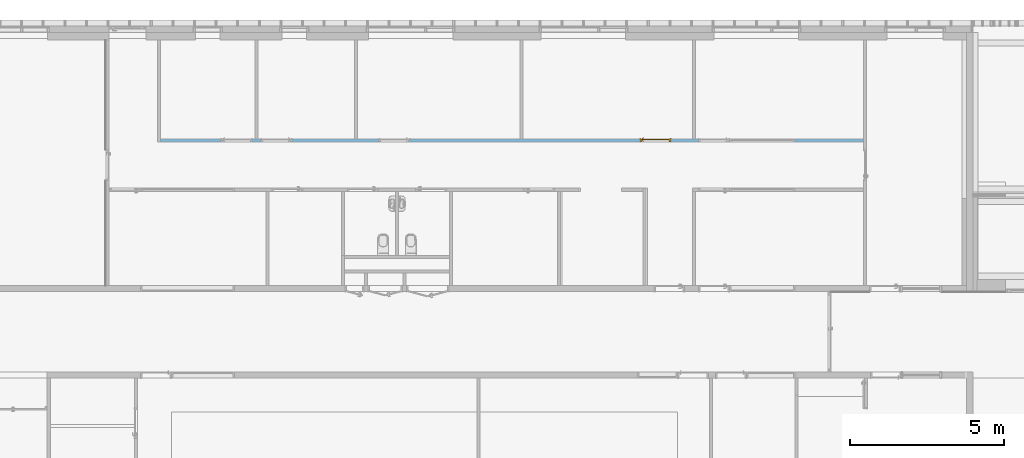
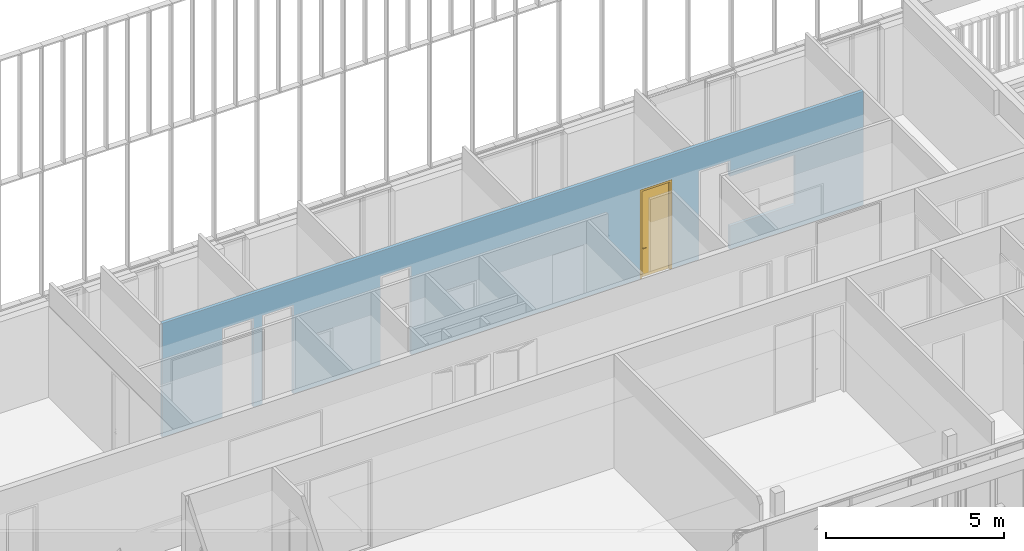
# One storey, part 154 of 240: 1 door, 6 openings, plus 1 element that does not belong to this part.
"""IFC2X3 building model written with IfcOpenShell, lengths in centimetres."""

from ifc_helpers import new_model, entity, si_unit, converted_unit, derived_unit, direction, frame, frame_2d, origin, place, context, subcontext, project, spatial, polyline, rectangle, extrude, clip, bounded_halfspace, faceted_brep, source, transform, mapped, material, material_list, layer, layer_set, layer_usage, type_object, type_shapes, element, fill, save


model = new_model("IFC2X3")

# Units and contexts
model_context = context("Model", 3, precision=0.001, world=origin(), true_north=direction((6.12303176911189e-17, 1.0)))
body_context = subcontext(model_context, "Body", "Model", "MODEL_VIEW")
ifc_project = project(units=[si_unit("LENGTHUNIT", "METRE", prefix="CENTI"), si_unit("AREAUNIT", "SQUARE_METRE"), si_unit("VOLUMEUNIT", "CUBIC_METRE"), converted_unit("PLANEANGLEUNIT", "DEGREE", entity("IfcRatioMeasure", 0.0174532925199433), si_unit("PLANEANGLEUNIT", "RADIAN"), dimensions=[0, 0, 0, 0, 0, 0, 0]), si_unit("MASSUNIT", "GRAM", prefix="KILO"), derived_unit("MASSDENSITYUNIT", [(si_unit("MASSUNIT", "GRAM", prefix="KILO"), 1), (si_unit("LENGTHUNIT", "METRE"), -3)]), si_unit("TIMEUNIT", "SECOND"), si_unit("FREQUENCYUNIT", "HERTZ"), si_unit("THERMODYNAMICTEMPERATUREUNIT", "DEGREE_CELSIUS"), derived_unit("THERMALTRANSMITTANCEUNIT", [(si_unit("MASSUNIT", "GRAM", prefix="KILO"), 1), (si_unit("THERMODYNAMICTEMPERATUREUNIT", "KELVIN"), -1), (si_unit("TIMEUNIT", "SECOND"), -3)]), derived_unit("VOLUMETRICFLOWRATEUNIT", [(si_unit("LENGTHUNIT", "METRE"), 3), (si_unit("TIMEUNIT", "SECOND"), -1)]), si_unit("ELECTRICCURRENTUNIT", "AMPERE"), si_unit("ELECTRICVOLTAGEUNIT", "VOLT"), si_unit("POWERUNIT", "WATT"), si_unit("FORCEUNIT", "NEWTON", prefix="KILO"), si_unit("ILLUMINANCEUNIT", "LUX"), si_unit("LUMINOUSFLUXUNIT", "LUMEN"), si_unit("LUMINOUSINTENSITYUNIT", "CANDELA"), derived_unit("USERDEFINED", [(si_unit("MASSUNIT", "GRAM", prefix="KILO"), -1), (si_unit("LENGTHUNIT", "METRE"), -2), (si_unit("TIMEUNIT", "SECOND"), 3), (si_unit("LUMINOUSFLUXUNIT", "LUMEN"), 1)]), derived_unit("LINEARVELOCITYUNIT", [(si_unit("LENGTHUNIT", "METRE"), 1), (si_unit("TIMEUNIT", "SECOND"), -1)]), si_unit("PRESSUREUNIT", "PASCAL"), derived_unit("USERDEFINED", [(si_unit("LENGTHUNIT", "METRE"), -2), (si_unit("MASSUNIT", "GRAM", prefix="KILO"), 1), (si_unit("TIMEUNIT", "SECOND"), -2)])], contexts=[model_context])

# Site, building, storey
site_placement = place(None, frame((-2781.94577612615, 7442.24238424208, 0.0)))
site = spatial("IfcSite", under=ifc_project, at=site_placement, Name="Default", CompositionType="ELEMENT")
building_placement = place(site_placement, origin())
building = spatial("IfcBuilding", under=site, at=building_placement, CompositionType="ELEMENT")
storey_placement = place(building_placement, origin())
storey = spatial("IfcBuildingStorey", under=building, at=storey_placement, Name="N00 - COO", CompositionType="ELEMENT", Elevation=0.0)

# Wall, openings, door
ifc_material_1 = material(Name="01 - Enduit/Plâtre")
ifc_layer_1 = layer(ifc_material_1, 1.3)
ifc_material_2 = material(Name="00 - Isolant")
ifc_layer_2 = layer(ifc_material_2, 7.4)
ifc_layer_3 = layer(ifc_material_1, 1.3)
ifc_layer_set = layer_set([ifc_layer_1, ifc_layer_2, ifc_layer_3], Name="Mur de base:06 - cloisons - Ba13 10cm")
ifc_layer_usage = layer_usage(ifc_layer_set, "AXIS2", "NEGATIVE", 5.0)
wall_type = type_object("IfcWallType", Name="Mur de base:06 - cloisons - Ba13 10cm", PredefinedType="STANDARD", material=ifc_layer_set)
wall_placement = place(building_placement, frame((-5122.49987760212, -340.0, 0.0), z_axis=(0.0, 0.0, 1.0), x_axis=(-1.0, 0.0, 0.0)))
wall = element("IfcWallStandardCase", 1, at=wall_placement, inside=storey, type_object=wall_type, material=ifc_layer_usage, Name="Mur de base:06 - cloisons - Ba13 10cm", ObjectType="Mur de base:06 - cloisons - Ba13 10cm", context=body_context, shape_type="Clipping", body=[
    clip(extrude(rectangle(XDim=2276.75, YDim=10.0, at=frame_2d((1138.375, -3.5527136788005e-15), x_axis=(-1.0, 0.0))), origin(), (0.0, 0.0, 1.0), 391.0), bounded_halfspace(frame((0.0, -5.0, 391.0), z_axis=(0.0, 0.0, -1.0), x_axis=(0.0, -1.0, 0.0)), True, frame((0.0, -5.0, 391.0)), polyline([(0.0, 0.0), (544.0, 0.0), (554.0, 0.0), (1103.0, 0.0), (1113.0, 0.0), (1639.0, 0.0), (1649.0, 0.0), (1961.0, 0.0), (1971.0, 0.0), (2276.75, 0.0), (2276.75, 10.0), (0.0, 10.0), (0.0, 0.0)]))),
])
opening_1_placement = place(wall_placement, frame((2081.0, 5.0, 0.0)))
element("IfcOpeningElement", 2, at=opening_1_placement, cuts=wall, Name="Int. Simple:PV (0.93m x 3.00m):1", ObjectType="Opening", context=body_context, shape_type="SweptSolid", body=[
    extrude(rectangle(XDim=304.500000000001, YDim=99.9999999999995, at=frame_2d((152.250000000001, 49.9999999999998), x_axis=(1.0, 0.0))), frame((0.0, 0.0, 0.0), z_axis=(0.0, -1.0, 0.0), x_axis=(0.0, 0.0, 1.0)), (0.0, 0.0, 1.0), 10.0),
])
opening_2_placement = place(wall_placement, frame((1951.0, 5.0, 0.0)))
element("IfcOpeningElement", 3, at=opening_2_placement, cuts=wall, Name="Int. Simple:PV (0.93m x 3.00m):1", ObjectType="Opening", context=body_context, shape_type="SweptSolid", body=[
    extrude(rectangle(XDim=304.500000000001, YDim=99.9999999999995, at=frame_2d((152.250000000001, 50.0), x_axis=(1.0, 0.0))), frame((0.0, 0.0, 0.0), z_axis=(0.0, -1.0, 0.0), x_axis=(0.0, 0.0, 1.0)), (0.0, 0.0, 1.0), 10.0),
])
opening_3_placement = place(wall_placement, frame((1569.0, 5.0, 0.0)))
element("IfcOpeningElement", 4, at=opening_3_placement, cuts=wall, Name="Int. Simple:PV (0.93m x 3.00m):1", ObjectType="Opening", context=body_context, shape_type="SweptSolid", body=[
    extrude(rectangle(XDim=304.500000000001, YDim=99.9999999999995, at=frame_2d((152.250000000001, 50.0), x_axis=(1.0, 0.0))), frame((0.0, 0.0, 0.0), z_axis=(0.0, -1.0, 0.0), x_axis=(0.0, 0.0, 1.0)), (0.0, 0.0, 1.0), 10.0),
])
opening_4_placement = place(wall_placement, frame((724.0, 5.0, 0.0)))
opening_4 = element("IfcOpeningElement", 5, at=opening_4_placement, cuts=wall, Name="Int. Simple:PV (0.93m x 3.00m):1", ObjectType="Opening", context=body_context, shape_type="SweptSolid", body=[
    extrude(rectangle(XDim=304.500000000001, YDim=99.9999999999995, at=frame_2d((152.250000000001, 49.9999999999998), x_axis=(1.0, 0.0))), frame((0.0, 0.0, 0.0), z_axis=(0.0, -1.0, 0.0), x_axis=(0.0, 0.0, 1.0)), (0.0, 0.0, 1.0), 10.0),
])
opening_5_placement = place(wall_placement, frame((534.0, 5.0, 0.0)))
element("IfcOpeningElement", 6, at=opening_5_placement, cuts=wall, Name="Int. Simple:PV (0.93m x 3.00m):1", ObjectType="Opening", context=body_context, shape_type="SweptSolid", body=[
    extrude(rectangle(XDim=304.500000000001, YDim=99.9999999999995, at=frame_2d((152.250000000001, 50.0), x_axis=(1.0, 0.0))), frame((0.0, 0.0, 0.0), z_axis=(0.0, -1.0, 0.0), x_axis=(0.0, 0.0, 1.0)), (0.0, 0.0, 1.0), 10.0),
])
opening_6_placement = place(wall_placement, frame((222.0, -5.0, 80.0)))
element("IfcOpeningElement", 7, at=opening_6_placement, cuts=wall, Name="châssis intérieur vitré:châssis intérieur vitré (h=170):1", ObjectType="Opening", context=body_context, shape_type="SweptSolid", body=[
    extrude(rectangle(XDim=170.0, YDim=211.999999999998, at=frame_2d((84.9999999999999, 105.999999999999), x_axis=(1.0, 0.0))), frame((0.0, 0.0, 0.0), z_axis=(0.0, 1.0, 0.0), x_axis=(0.0, 0.0, 1.0)), (0.0, 0.0, 1.0), 10.0),
])
ifc_material_3 = material(Name="Finition Peinture - Blanc satiné")
ifc_material_4 = material(Name="Bois - Panneau de porte")
ifc_material_5 = material(Name="Bois - Cadre de porte")
ifc_material_list_1 = material_list([ifc_material_3, ifc_material_4, ifc_material_5])
ifc_material_list_2 = material_list([ifc_material_3, ifc_material_4, ifc_material_5])
door_style = type_object("IfcDoorStyle", Name="PV (0.93m x 3.00m)", ConstructionType="NOTDEFINED", OperationType="SINGLE_SWING_RIGHT", ParameterTakesPrecedence=False, Sizeable=False, material=ifc_material_list_2)
shared_shape = source(origin(), body_context, "Body", "Brep", [
    faceted_brep([(99.5000000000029, -0.500000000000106, 87.0), (99.5000000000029, -0.500000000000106, 108.0), (98.535276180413, -0.500000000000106, 108.399601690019), (97.5000000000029, -0.500000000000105, 108.535898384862), (96.4647238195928, -0.500000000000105, 108.399601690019), (95.500000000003, -0.500000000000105, 108.0), (95.5000000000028, -0.500000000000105, 87.0), (96.4647238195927, -0.500000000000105, 86.6003983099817), (97.5000000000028, -0.500000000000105, 86.464101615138), (98.5352761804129, -0.500000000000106, 86.6003983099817), (99.5000000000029, 0.0, 108.0), (99.5000000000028, 0.0, 87.0), (98.5352761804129, 0.0, 86.6003983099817), (97.5000000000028, 0.0, 86.464101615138), (96.4647238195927, 0.0, 86.6003983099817), (95.5000000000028, 0.0, 87.0), (95.5000000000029, 0.0, 108.0), (96.4647238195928, 0.0, 108.399601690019), (97.5000000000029, 0.0, 108.535898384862), (98.535276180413, 0.0, 108.399601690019)], [[[0, 1, 2, 3, 4, 5, 6, 7, 8, 9]], [[10, 11, 12, 13, 14, 15, 16, 17, 18, 19]], [[9, 12, 11, 0]], [[8, 13, 12, 9]], [[7, 14, 13, 8]], [[7, 6, 15, 14]], [[15, 6, 5, 16]], [[4, 17, 16, 5]], [[3, 18, 17, 4]], [[2, 19, 18, 3]], [[2, 1, 10, 19]], [[11, 10, 1, 0]]]),
    faceted_brep([(99.5000000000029, 4.0, 87.0), (99.5000000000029, 4.0, 108.0), (98.535276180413, 4.0, 108.399601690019), (97.5000000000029, 4.0, 108.535898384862), (96.4647238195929, 4.0, 108.399601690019), (95.500000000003, 4.0, 108.0), (95.5000000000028, 4.0, 87.0), (96.4647238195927, 4.0, 86.6003983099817), (97.5000000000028, 4.0, 86.464101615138), (98.5352761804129, 4.0, 86.6003983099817), (97.5000000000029, 4.49999999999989, 108.535898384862), (98.535276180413, 4.49999999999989, 108.399601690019), (99.5000000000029, 4.49999999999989, 108.0), (99.5000000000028, 4.49999999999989, 87.0), (98.5352761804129, 4.49999999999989, 86.6003983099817), (97.5000000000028, 4.49999999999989, 86.464101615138), (96.4647238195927, 4.49999999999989, 86.6003983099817), (95.5000000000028, 4.49999999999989, 87.0), (95.500000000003, 4.49999999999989, 108.0), (96.4647238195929, 4.49999999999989, 108.399601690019)], [[[0, 1, 2, 3, 4, 5, 6, 7, 8, 9]], [[10, 11, 12, 13, 14, 15, 16, 17, 18, 19]], [[4, 19, 18, 5]], [[3, 10, 19, 4]], [[2, 11, 10, 3]], [[2, 1, 12, 11]], [[13, 12, 1, 0]], [[9, 14, 13, 0]], [[8, 15, 14, 9]], [[7, 16, 15, 8]], [[7, 6, 17, 16]], [[17, 6, 5, 18]]]),
    faceted_brep([(97.2974701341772, -0.50000000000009, 100.778044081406), (97.7025298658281, -0.500000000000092, 100.778044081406), (98.1000000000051, -0.500000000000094, 100.699999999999), (98.100000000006, -0.500000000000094, 99.2999999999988), (97.7025298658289, -0.500000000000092, 99.221955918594), (97.297470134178, -0.50000000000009, 99.2219559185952), (96.9000000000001, -0.500000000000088, 99.3000000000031), (96.9000000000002, -0.500000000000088, 100.7), (97.7025298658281, -3.10045754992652, 100.778044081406), (98.1000000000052, -3.26509507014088, 100.7), (97.2974701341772, -2.93267631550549, 100.778044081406), (95.9298602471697, -4.30028620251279, 100.778044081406), (96.0976414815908, -4.70534593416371, 100.778044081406), (96.9000000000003, -2.76803879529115, 100.7), (96.9000000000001, -2.76803879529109, 99.3000000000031), (97.297470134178, -2.93267631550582, 99.2219559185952), (97.7025298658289, -3.10045754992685, 99.221955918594), (96.0976414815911, -4.70534593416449, 99.221955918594), (95.9298602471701, -4.30028620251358, 99.2219559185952), (98.100000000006, -3.26509507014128, 99.2999999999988), (96.2622790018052, -5.10281606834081, 100.7), (95.7652227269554, -3.90281606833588, 100.7), (95.7652227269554, -3.90281606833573, 99.3000000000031), (96.2622790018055, -5.10281606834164, 99.2999999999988), (87.4981359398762, -5.10281606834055, 100.7), (87.4981359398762, -4.70534593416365, 100.778044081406), (87.4981359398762, -4.30028620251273, 100.778044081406), (87.4981359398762, -3.90281606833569, 100.699999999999), (87.4981359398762, -3.90281606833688, 99.3000000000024), (87.4981359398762, -4.30028620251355, 99.2219559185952), (87.4981359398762, -4.70534593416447, 99.221955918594), (87.4981359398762, -5.10281606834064, 99.2999999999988), (91.7139980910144, -4.5028160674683, 100.78786867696), (92.2692302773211, -5.1028160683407, 100.7), (91.6316793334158, -3.9028160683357, 100.7), (91.631679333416, -3.9028160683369, 99.3000000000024), (91.7139981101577, -4.50281607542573, 99.2121313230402), (92.2692310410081, -5.10281606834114, 99.2999999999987)], [[[0, 1, 2, 3, 4, 5, 6, 7]], [[2, 1, 8, 9]], [[1, 0, 10, 11, 12, 8]], [[0, 7, 13, 10]], [[14, 13, 7, 6]], [[5, 15, 14, 6]], [[5, 4, 16, 17, 18, 15]], [[3, 19, 16, 4]], [[9, 19, 3, 2]], [[9, 8, 12, 20]], [[10, 13, 21, 11]], [[22, 21, 13, 14]], [[14, 15, 18, 22]], [[16, 19, 23, 17]], [[20, 23, 19, 9]], [[24, 25, 26, 27, 28, 29, 30, 31]], [[32, 25, 33]], [[33, 25, 24]], [[33, 20, 12]], [[11, 34, 32]], [[34, 11, 21]], [[27, 26, 34]], [[32, 26, 25]], [[32, 34, 26]], [[32, 33, 12]], [[11, 32, 12]], [[21, 22, 35, 28, 27, 34]], [[36, 29, 35]], [[30, 36, 37]], [[18, 35, 22]], [[29, 28, 35]], [[30, 37, 31]], [[37, 17, 23]], [[36, 17, 37]], [[36, 18, 17]], [[36, 35, 18]], [[29, 36, 30]], [[23, 20, 33, 24, 31, 37]]]),
    faceted_brep([(97.2974701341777, 4.49999999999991, 99.2219559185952), (97.7025298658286, 4.49999999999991, 99.221955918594), (98.1000000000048, 4.4999999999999, 99.2999999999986), (98.1000000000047, 4.4999999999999, 100.7), (97.7025298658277, 4.49999999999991, 100.778044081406), (97.2974701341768, 4.49999999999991, 100.778044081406), (96.8999999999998, 4.49999999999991, 100.7), (96.900000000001, 4.49999999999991, 99.3000000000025), (96.8999999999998, 6.7485204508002, 100.7), (96.8999999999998, 6.74852045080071, 99.3000000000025), (97.2974701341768, 6.91315797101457, 100.778044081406), (97.7025298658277, 7.0809392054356, 100.778044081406), (96.0838906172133, 8.69957845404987, 100.778044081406), (95.9161093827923, 8.29451872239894, 100.778044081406), (98.1000000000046, 7.24557672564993, 100.7), (98.1000000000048, 7.24557672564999, 99.2999999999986), (97.7025298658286, 7.08093920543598, 99.221955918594), (97.2974701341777, 6.91315797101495, 99.2219559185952), (95.9161093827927, 8.29451872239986, 99.2219559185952), (96.0838906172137, 8.69957845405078, 99.221955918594), (95.751471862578, 7.89704858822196, 100.7), (95.7514718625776, 7.89704858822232, 99.3000000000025), (96.2485281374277, 9.09704858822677, 100.7), (96.2485281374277, 9.09704858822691, 99.2999999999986), (87.4954216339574, 8.29451872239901, 100.778044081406), (87.4954216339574, 8.69957845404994, 100.778044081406), (87.4954216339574, 9.09704858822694, 100.7), (87.4954216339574, 9.09704858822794, 99.2999999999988), (87.4954216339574, 8.6995784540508, 99.221955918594), (87.4954216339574, 8.29451872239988, 99.2219559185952), (87.4954216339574, 7.89704858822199, 99.3000000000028), (87.4954216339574, 7.89704858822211, 100.7), (91.6234467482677, 7.89704858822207, 100.7), (91.6234479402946, 7.89704858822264, 99.3000000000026), (91.7057655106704, 8.49704858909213, 100.78786867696), (92.255479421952, 9.09704858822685, 100.7), (92.2554795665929, 9.09704858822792, 99.2999999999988), (91.7057654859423, 8.49704858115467, 99.2121313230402)], [[[0, 1, 2, 3, 4, 5, 6, 7]], [[8, 9, 7, 6]], [[5, 10, 8, 6]], [[5, 4, 11, 12, 13, 10]], [[3, 14, 11, 4]], [[14, 3, 2, 15]], [[2, 1, 16, 15]], [[1, 0, 17, 18, 19, 16]], [[0, 7, 9, 17]], [[20, 21, 9, 8]], [[8, 10, 13, 20]], [[14, 22, 12, 11]], [[23, 22, 14, 15]], [[15, 16, 19, 23]], [[17, 9, 21, 18]], [[24, 25, 26, 27, 28, 29, 30, 31]], [[21, 20, 32, 31, 30, 33]], [[34, 24, 32]], [[25, 34, 35]], [[13, 32, 20]], [[24, 31, 32]], [[25, 35, 26]], [[35, 12, 22]], [[34, 12, 35]], [[34, 13, 12]], [[34, 32, 13]], [[24, 34, 25]], [[22, 23, 36, 27, 26, 35]], [[37, 28, 36]], [[36, 28, 27]], [[36, 23, 19]], [[18, 33, 37]], [[33, 18, 21]], [[30, 29, 33]], [[37, 29, 28]], [[37, 33, 29]], [[37, 36, 19]], [[18, 37, 19]]]),
    faceted_brep([(103.500000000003, 4.0, 301.0), (103.500000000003, 4.0, 0.0), (10.5000000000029, 4.0, 0.0), (10.5000000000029, 4.0, 301.0), (103.500000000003, 0.0, 301.0), (10.5000000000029, 0.0, 301.0), (10.5000000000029, 0.0, 0.0), (103.500000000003, 0.0, 0.0)], [[[0, 1, 2, 3]], [[4, 5, 6, 7]], [[3, 5, 4, 0]], [[2, 6, 5, 3]], [[1, 7, 6, 2]], [[0, 4, 7, 1]]]),
    faceted_brep([(107.0, 10.0, 0.0), (107.0, 0.0, 0.0), (108.500000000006, 0.0, 0.0), (108.500000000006, -0.500000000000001, 0.0), (103.500000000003, -0.500000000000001, 0.0), (103.500000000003, 4.0, 0.0), (102.0, 4.0, 0.0), (102.0, 10.5000000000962, 0.0), (108.500000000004, 10.5000000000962, 0.0), (108.500000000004, 10.0, 0.0), (108.500000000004, 10.0, 306.0), (5.50000000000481, 10.0, 306.0), (5.50000000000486, 10.0, 0.0), (7.0, 10.0, 0.0), (7.0, 10.0, 304.500000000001), (107.0, 10.0, 304.500000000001), (108.500000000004, 10.5000000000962, 306.0), (102.0, 10.5000000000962, 299.5), (12.0, 10.5000000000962, 299.5), (12.0, 10.5000000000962, 0.0), (5.50000000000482, 10.5000000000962, 0.0), (5.50000000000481, 10.5000000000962, 306.0), (102.0, 4.0, 299.5), (103.500000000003, 4.0, 301.0), (10.5000000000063, 4.0, 301.0), (10.5000000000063, 4.0, 0.0), (12.0, 4.0, 0.0), (12.0, 4.0, 299.5), (103.500000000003, -0.500000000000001, 301.0), (108.500000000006, -0.500000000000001, 306.0), (5.5000000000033, -0.500000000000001, 306.0), (5.50000000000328, -0.500000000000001, 0.0), (10.5000000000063, -0.500000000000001, 0.0), (10.5000000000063, -0.500000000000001, 301.0), (108.500000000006, 0.0, 306.0), (107.0, 0.0, 304.500000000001), (7.0, 0.0, 304.500000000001), (7.0, 0.0, 0.0), (5.5000000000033, 0.0, 0.0), (5.50000000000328, 0.0, 306.0)], [[[0, 1, 2, 3, 4, 5, 6, 7, 8, 9]], [[9, 10, 11, 12, 13, 14, 15, 0]], [[8, 16, 10, 9]], [[7, 17, 18, 19, 20, 21, 16, 8]], [[7, 6, 22, 17]], [[5, 23, 24, 25, 26, 27, 22, 6]], [[5, 4, 28, 23]], [[3, 29, 30, 31, 32, 33, 28, 4]], [[2, 34, 29, 3]], [[1, 35, 36, 37, 38, 39, 34, 2]], [[0, 15, 35, 1]], [[14, 13, 37, 36]], [[13, 12, 20, 19, 26, 25, 32, 31, 38, 37]], [[21, 20, 12, 11]], [[27, 26, 19, 18]], [[33, 32, 25, 24]], [[39, 38, 31, 30]], [[15, 14, 36, 35]], [[16, 21, 11, 10]], [[22, 27, 18, 17]], [[28, 33, 24, 23]], [[34, 39, 30, 29]]]),
])
type_shapes(door_style, [shared_shape])
door_placement = place(opening_4_placement, frame((-107.0, -10.0, 0.0)))
door = element("IfcDoor", 8, at=door_placement, inside=storey, type_object=door_style, material=ifc_material_list_1, Name="Int. Simple:PV (0.93m x 3.00m)", ObjectType="Int. Simple:PV (0.93m x 3.00m)", OverallHeight=304.500000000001, OverallWidth=99.9999999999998, context=body_context, shape_type="MappedRepresentation", body=[
    mapped(shared_shape, transform((0.0, 0.0, 0.0), scale=1.0)),
])
fill(opening_4, door)

save(model, "model.ifc")
